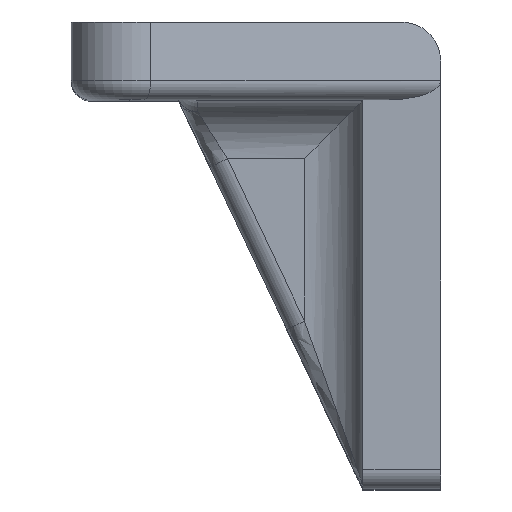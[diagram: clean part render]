
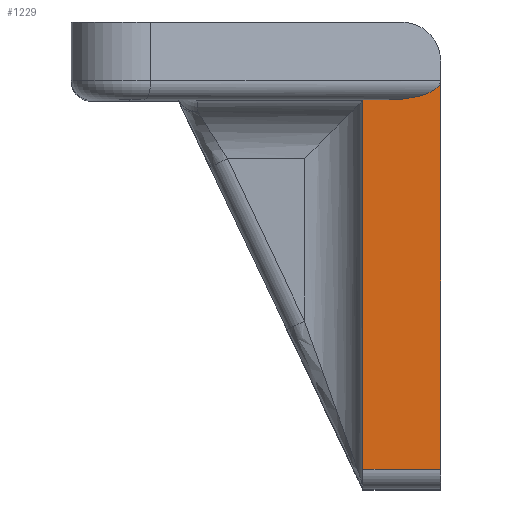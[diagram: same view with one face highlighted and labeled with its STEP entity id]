
A CAD part, top view. The second image highlights one B-rep face of the part: STEP entity #1229.
In plain terms, the highlighted planar face has unit normal (0, 0, 1).
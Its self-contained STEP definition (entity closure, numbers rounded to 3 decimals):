
#122=PLANE('',#1379);
#188=FACE_OUTER_BOUND('',#267,.T.);
#267=EDGE_LOOP('',(#1122,#1123,#1124,#1125,#1126));
#273=LINE('',#1769,#372);
#310=LINE('',#2091,#409);
#342=LINE('',#2196,#441);
#343=LINE('',#2198,#442);
#372=VECTOR('',#1395,10.);
#409=VECTOR('',#1536,10.);
#441=VECTOR('',#1656,10.);
#442=VECTOR('',#1659,10.);
#485=ELLIPSE('',#1328,2.76,1.);
#492=VERTEX_POINT('',#1766);
#493=VERTEX_POINT('',#1768);
#554=VERTEX_POINT('',#2088);
#555=VERTEX_POINT('',#2090);
#573=VERTEX_POINT('',#2151);
#605=EDGE_CURVE('',#493,#492,#273,.T.);
#684=EDGE_CURVE('',#554,#555,#310,.T.);
#716=EDGE_CURVE('',#492,#573,#485,.T.);
#739=EDGE_CURVE('',#493,#554,#342,.T.);
#740=EDGE_CURVE('',#555,#573,#343,.T.);
#1122=ORIENTED_EDGE('',*,*,#739,.F.);
#1123=ORIENTED_EDGE('',*,*,#605,.T.);
#1124=ORIENTED_EDGE('',*,*,#716,.T.);
#1125=ORIENTED_EDGE('',*,*,#740,.F.);
#1126=ORIENTED_EDGE('',*,*,#684,.F.);
#1229=ADVANCED_FACE('',(#188),#122,.T.);
#1328=AXIS2_PLACEMENT_3D('',#2152,#1605,#1606);
#1379=AXIS2_PLACEMENT_3D('',#2299,#1749,#1750);
#1395=DIRECTION('',(0.,1.,0.));
#1536=DIRECTION('',(0.,1.,0.));
#1605=DIRECTION('center_axis',(0.,0.,-1.));
#1606=DIRECTION('ref_axis',(1.,0.,0.));
#1656=DIRECTION('',(-1.,0.,0.));
#1659=DIRECTION('',(1.,0.,0.));
#1749=DIRECTION('center_axis',(0.,0.,1.));
#1750=DIRECTION('ref_axis',(0.,-1.,0.));
#1766=CARTESIAN_POINT('',(4.,11.,17.));
#1768=CARTESIAN_POINT('',(4.,-9.,17.));
#1769=CARTESIAN_POINT('',(4.,10.,17.));
#2088=CARTESIAN_POINT('',(0.,-9.,17.));
#2090=CARTESIAN_POINT('',(0.,10.,17.));
#2091=CARTESIAN_POINT('',(0.,-10.,17.));
#2151=CARTESIAN_POINT('',(1.24,10.,17.));
#2152=CARTESIAN_POINT('Origin',(1.24,11.,17.));
#2196=CARTESIAN_POINT('',(0.,-9.,17.));
#2198=CARTESIAN_POINT('',(0.,10.,17.));
#2299=CARTESIAN_POINT('Origin',(0.,10.,17.));
